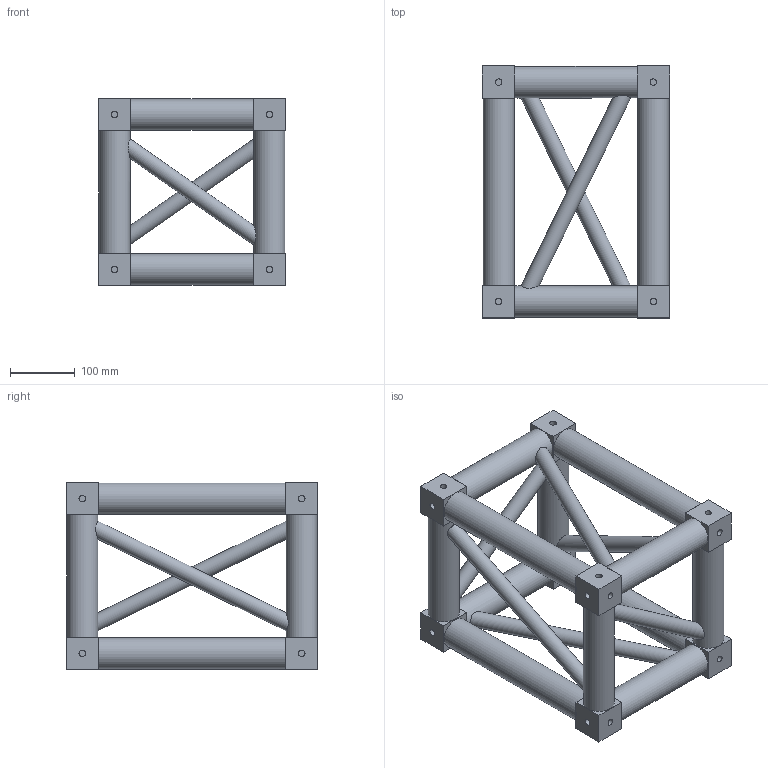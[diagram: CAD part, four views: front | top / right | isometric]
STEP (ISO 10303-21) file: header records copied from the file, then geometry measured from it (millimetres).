
FILE_DESCRIPTION(/* description */ (''),/* implementation_level */ '2;1');
FILE_NAME(/* name */ 'M:\Symbolen_NIEUW\STP\Boxcorner\111130050.stp',/* time_stamp */ '2015-05-19T13:10:03+02:00',/* author */ ('Stephan'),/* organization */ (''),/* preprocessor_version */ 'ST-DEVELOPER v15.6',/* originating_system */ 'Autodesk Inventor 2015',/* authorisation */ '');
FILE_SCHEMA (('AUTOMOTIVE_DESIGN { 1 0 10303 214 3 1 1 }'));
Length unit declared in the file: millimetre
Products named in the file (1): 160024214
Bounding box: 289 x 389 x 289 mm (x, y, z)
Volume: 6673113.4 mm3; surface area: 645102 mm2
Topology: 1 solids, 1 shells, 152 faces, 428 edges, 280 vertices
Faces by surface type: plane 86, cylinder 66
Full cylindrical faces by diameter (mm): 10.106 x48, 25 x6, 48.3 x12
Entity records: 4937 total; most frequent: CARTESIAN_POINT 1153, DIRECTION 794, ORIENTED_EDGE 608, AXIS2_PLACEMENT_3D 349, EDGE_CURVE 304, EDGE_LOOP 278, VERTEX_POINT 226, STYLED_ITEM 153
